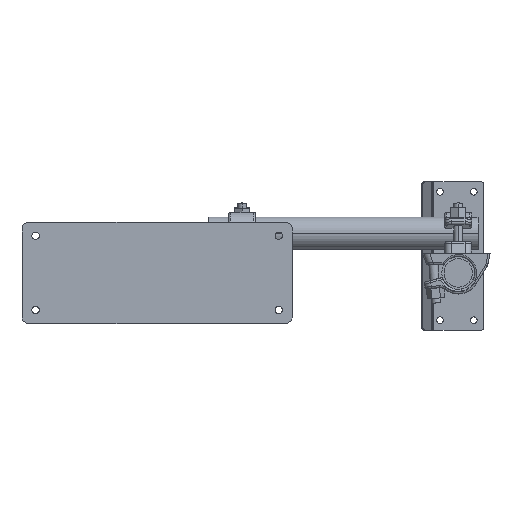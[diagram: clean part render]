
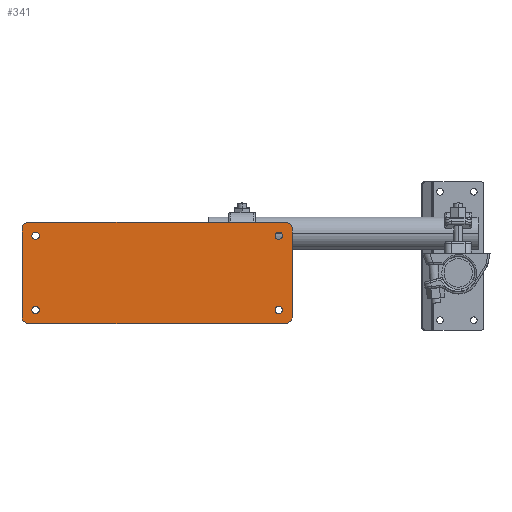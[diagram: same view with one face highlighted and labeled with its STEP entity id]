
A CAD part, left-side view. The second image highlights one B-rep face of the part: STEP entity #341.
In plain terms, the highlighted planar face has unit normal (-1, 0, 0) as drawn and (0, 0, -1) by its records, which use the part's own axes.
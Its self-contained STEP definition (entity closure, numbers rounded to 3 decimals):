
#14=DIRECTION('',(-1.,0.,0.));
#15=VECTOR('',#14,130.);
#16=CARTESIAN_POINT('',(65.,200.,0.));
#17=LINE('',#16,#15);
#18=CARTESIAN_POINT('',(-65.,190.,0.));
#19=DIRECTION('',(0.,0.,1.));
#20=DIRECTION('',(0.,1.,0.));
#21=AXIS2_PLACEMENT_3D('',#18,#19,#20);
#23=DIRECTION('',(0.,-1.,0.));
#24=VECTOR('',#23,380.);
#25=CARTESIAN_POINT('',(-75.,190.,0.));
#26=LINE('',#25,#24);
#27=CARTESIAN_POINT('',(-65.,-190.,0.));
#28=DIRECTION('',(0.,0.,1.));
#29=DIRECTION('',(-1.,0.,0.));
#30=AXIS2_PLACEMENT_3D('',#27,#28,#29);
#32=DIRECTION('',(1.,0.,0.));
#33=VECTOR('',#32,130.);
#34=CARTESIAN_POINT('',(-65.,-200.,0.));
#35=LINE('',#34,#33);
#36=CARTESIAN_POINT('',(65.,-190.,0.));
#37=DIRECTION('',(0.,0.,1.));
#38=DIRECTION('',(0.,-1.,0.));
#39=AXIS2_PLACEMENT_3D('',#36,#37,#38);
#41=DIRECTION('',(0.,1.,0.));
#42=VECTOR('',#41,380.);
#43=CARTESIAN_POINT('',(75.,-190.,0.));
#44=LINE('',#43,#42);
#45=CARTESIAN_POINT('',(65.,190.,0.));
#46=DIRECTION('',(0.,0.,1.));
#47=DIRECTION('',(1.,0.,0.));
#48=AXIS2_PLACEMENT_3D('',#45,#46,#47);
#50=CARTESIAN_POINT('',(-55.,180.,0.));
#51=DIRECTION('',(0.,0.,1.));
#52=DIRECTION('',(1.,0.,0.));
#53=AXIS2_PLACEMENT_3D('',#50,#51,#52);
#55=CARTESIAN_POINT('',(-55.,180.,0.));
#56=DIRECTION('',(0.,0.,1.));
#57=DIRECTION('',(-1.,0.,0.));
#58=AXIS2_PLACEMENT_3D('',#55,#56,#57);
#60=CARTESIAN_POINT('',(55.,180.,0.));
#61=DIRECTION('',(0.,0.,1.));
#62=DIRECTION('',(1.,0.,0.));
#63=AXIS2_PLACEMENT_3D('',#60,#61,#62);
#65=CARTESIAN_POINT('',(55.,180.,0.));
#66=DIRECTION('',(0.,0.,1.));
#67=DIRECTION('',(-1.,0.,0.));
#68=AXIS2_PLACEMENT_3D('',#65,#66,#67);
#70=CARTESIAN_POINT('',(-55.,-180.,0.));
#71=DIRECTION('',(0.,0.,1.));
#72=DIRECTION('',(1.,0.,0.));
#73=AXIS2_PLACEMENT_3D('',#70,#71,#72);
#75=CARTESIAN_POINT('',(-55.,-180.,0.));
#76=DIRECTION('',(0.,0.,1.));
#77=DIRECTION('',(-1.,0.,0.));
#78=AXIS2_PLACEMENT_3D('',#75,#76,#77);
#80=CARTESIAN_POINT('',(55.,-180.,0.));
#81=DIRECTION('',(0.,0.,1.));
#82=DIRECTION('',(1.,0.,0.));
#83=AXIS2_PLACEMENT_3D('',#80,#81,#82);
#85=CARTESIAN_POINT('',(55.,-180.,0.));
#86=DIRECTION('',(0.,0.,1.));
#87=DIRECTION('',(-1.,0.,0.));
#88=AXIS2_PLACEMENT_3D('',#85,#86,#87);
#230=CARTESIAN_POINT('',(65.,200.,0.));
#231=CARTESIAN_POINT('',(-65.,200.,0.));
#232=VERTEX_POINT('',#230);
#233=VERTEX_POINT('',#231);
#234=CARTESIAN_POINT('',(-75.,190.,0.));
#235=VERTEX_POINT('',#234);
#236=CARTESIAN_POINT('',(-75.,-190.,0.));
#237=VERTEX_POINT('',#236);
#238=CARTESIAN_POINT('',(-65.,-200.,0.));
#239=VERTEX_POINT('',#238);
#240=CARTESIAN_POINT('',(65.,-200.,0.));
#241=VERTEX_POINT('',#240);
#242=CARTESIAN_POINT('',(75.,-190.,0.));
#243=VERTEX_POINT('',#242);
#244=CARTESIAN_POINT('',(75.,190.,0.));
#245=VERTEX_POINT('',#244);
#262=CARTESIAN_POINT('',(-49.5,180.,0.));
#263=CARTESIAN_POINT('',(-60.5,180.,0.));
#264=VERTEX_POINT('',#262);
#265=VERTEX_POINT('',#263);
#266=CARTESIAN_POINT('',(60.5,180.,0.));
#267=CARTESIAN_POINT('',(49.5,180.,0.));
#268=VERTEX_POINT('',#266);
#269=VERTEX_POINT('',#267);
#270=CARTESIAN_POINT('',(-49.5,-180.,0.));
#271=CARTESIAN_POINT('',(-60.5,-180.,0.));
#272=VERTEX_POINT('',#270);
#273=VERTEX_POINT('',#271);
#274=CARTESIAN_POINT('',(60.5,-180.,0.));
#275=CARTESIAN_POINT('',(49.5,-180.,0.));
#276=VERTEX_POINT('',#274);
#277=VERTEX_POINT('',#275);
#294=CARTESIAN_POINT('',(0.,0.,0.));
#295=DIRECTION('',(0.,0.,1.));
#296=DIRECTION('',(1.,0.,0.));
#297=AXIS2_PLACEMENT_3D('',#294,#295,#296);
#298=PLANE('',#297);
#300=ORIENTED_EDGE('',*,*,#299,.T.);
#302=ORIENTED_EDGE('',*,*,#301,.T.);
#304=ORIENTED_EDGE('',*,*,#303,.T.);
#306=ORIENTED_EDGE('',*,*,#305,.T.);
#308=ORIENTED_EDGE('',*,*,#307,.T.);
#310=ORIENTED_EDGE('',*,*,#309,.T.);
#312=ORIENTED_EDGE('',*,*,#311,.T.);
#314=ORIENTED_EDGE('',*,*,#313,.T.);
#315=EDGE_LOOP('',(#300,#302,#304,#306,#308,#310,#312,#314));
#316=FACE_OUTER_BOUND('',#315,.F.);
#318=ORIENTED_EDGE('',*,*,#317,.F.);
#320=ORIENTED_EDGE('',*,*,#319,.F.);
#321=EDGE_LOOP('',(#318,#320));
#322=FACE_BOUND('',#321,.F.);
#324=ORIENTED_EDGE('',*,*,#323,.F.);
#326=ORIENTED_EDGE('',*,*,#325,.F.);
#327=EDGE_LOOP('',(#324,#326));
#328=FACE_BOUND('',#327,.F.);
#330=ORIENTED_EDGE('',*,*,#329,.F.);
#332=ORIENTED_EDGE('',*,*,#331,.F.);
#333=EDGE_LOOP('',(#330,#332));
#334=FACE_BOUND('',#333,.F.);
#336=ORIENTED_EDGE('',*,*,#335,.F.);
#338=ORIENTED_EDGE('',*,*,#337,.F.);
#339=EDGE_LOOP('',(#336,#338));
#340=FACE_BOUND('',#339,.F.);
#22=CIRCLE('',#21,10.);
#31=CIRCLE('',#30,10.);
#40=CIRCLE('',#39,10.);
#49=CIRCLE('',#48,10.);
#54=CIRCLE('',#53,5.5);
#59=CIRCLE('',#58,5.5);
#64=CIRCLE('',#63,5.5);
#69=CIRCLE('',#68,5.5);
#74=CIRCLE('',#73,5.5);
#79=CIRCLE('',#78,5.5);
#84=CIRCLE('',#83,5.5);
#89=CIRCLE('',#88,5.5);
#299=EDGE_CURVE('',#232,#233,#17,.T.);
#301=EDGE_CURVE('',#233,#235,#22,.T.);
#303=EDGE_CURVE('',#235,#237,#26,.T.);
#305=EDGE_CURVE('',#237,#239,#31,.T.);
#307=EDGE_CURVE('',#239,#241,#35,.T.);
#309=EDGE_CURVE('',#241,#243,#40,.T.);
#311=EDGE_CURVE('',#243,#245,#44,.T.);
#313=EDGE_CURVE('',#245,#232,#49,.T.);
#317=EDGE_CURVE('',#264,#265,#54,.T.);
#319=EDGE_CURVE('',#265,#264,#59,.T.);
#323=EDGE_CURVE('',#268,#269,#64,.T.);
#325=EDGE_CURVE('',#269,#268,#69,.T.);
#329=EDGE_CURVE('',#272,#273,#74,.T.);
#331=EDGE_CURVE('',#273,#272,#79,.T.);
#335=EDGE_CURVE('',#276,#277,#84,.T.);
#337=EDGE_CURVE('',#277,#276,#89,.T.);
#341=ADVANCED_FACE('',(#316,#322,#328,#334,#340),#298,.F.);
